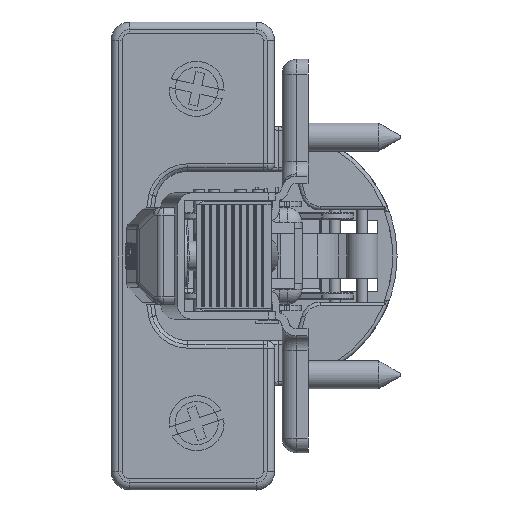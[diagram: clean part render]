
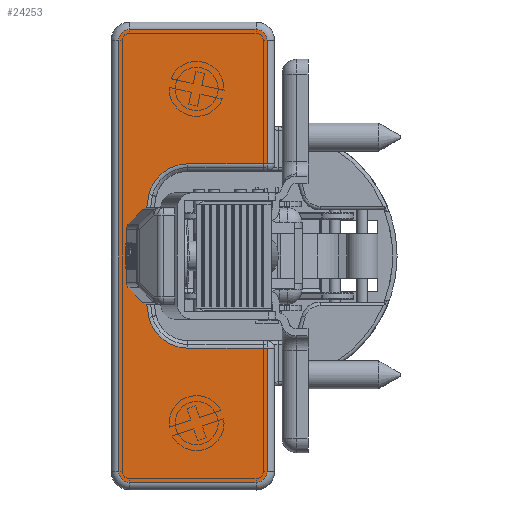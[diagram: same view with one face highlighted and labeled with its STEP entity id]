
A CAD part, left-side view. The second image highlights one B-rep face of the part: STEP entity #24253.
In plain terms, the highlighted planar face has unit normal (-1, 0, 0) as drawn and (0.179, 0.984, 0) by its records, which use the part's own axes.
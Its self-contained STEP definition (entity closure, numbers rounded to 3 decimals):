
#2317=CIRCLE('',#26334,1.5);
#2321=CIRCLE('',#26340,1.5);
#2325=CIRCLE('',#26346,1.5);
#2329=CIRCLE('',#26352,1.5);
#2333=CIRCLE('',#26359,5.4);
#2336=CIRCLE('',#26363,35.4);
#2339=CIRCLE('',#26367,5.4);
#3468=FACE_OUTER_BOUND('',#4950,.T.);
#4950=EDGE_LOOP('',(#19683,#19684,#19685,#19686,#19687,#19688,#19689,#19690,
#19691,#19692,#19693,#19694,#19695,#19696));
#6804=LINE('',#40602,#8758);
#6806=LINE('',#40614,#8760);
#6808=LINE('',#40626,#8762);
#6810=LINE('',#40638,#8764);
#6812=LINE('',#40647,#8766);
#6814=LINE('',#40653,#8768);
#6816=LINE('',#40674,#8770);
#8758=VECTOR('',#31757,16.6);
#8760=VECTOR('',#31771,17.);
#8762=VECTOR('',#31785,58.);
#8764=VECTOR('',#31799,17.);
#8766=VECTOR('',#31811,16.6);
#8768=VECTOR('',#31817,10.672);
#8770=VECTOR('',#31845,10.672);
#10813=VERTEX_POINT('',#40574);
#10818=VERTEX_POINT('',#40587);
#10823=VERTEX_POINT('',#40600);
#10825=VERTEX_POINT('',#40606);
#10827=VERTEX_POINT('',#40612);
#10829=VERTEX_POINT('',#40618);
#10831=VERTEX_POINT('',#40624);
#10833=VERTEX_POINT('',#40630);
#10835=VERTEX_POINT('',#40636);
#10837=VERTEX_POINT('',#40642);
#10839=VERTEX_POINT('',#40651);
#10841=VERTEX_POINT('',#40657);
#10843=VERTEX_POINT('',#40663);
#10845=VERTEX_POINT('',#40669);
#13808=EDGE_CURVE('',#10823,#10818,#6804,.T.);
#13811=EDGE_CURVE('',#10825,#10823,#2317,.T.);
#13814=EDGE_CURVE('',#10827,#10825,#6806,.T.);
#13817=EDGE_CURVE('',#10829,#10827,#2321,.T.);
#13820=EDGE_CURVE('',#10831,#10829,#6808,.T.);
#13823=EDGE_CURVE('',#10833,#10831,#2325,.T.);
#13826=EDGE_CURVE('',#10835,#10833,#6810,.T.);
#13829=EDGE_CURVE('',#10837,#10835,#2329,.T.);
#13831=EDGE_CURVE('',#10813,#10837,#6812,.T.);
#13834=EDGE_CURVE('',#10839,#10813,#6814,.T.);
#13837=EDGE_CURVE('',#10841,#10839,#2333,.T.);
#13840=EDGE_CURVE('',#10843,#10841,#2336,.T.);
#13843=EDGE_CURVE('',#10845,#10843,#2339,.T.);
#13845=EDGE_CURVE('',#10818,#10845,#6816,.T.);
#19683=ORIENTED_EDGE('',*,*,#13808,.F.);
#19684=ORIENTED_EDGE('',*,*,#13811,.F.);
#19685=ORIENTED_EDGE('',*,*,#13814,.F.);
#19686=ORIENTED_EDGE('',*,*,#13817,.F.);
#19687=ORIENTED_EDGE('',*,*,#13820,.F.);
#19688=ORIENTED_EDGE('',*,*,#13823,.F.);
#19689=ORIENTED_EDGE('',*,*,#13826,.F.);
#19690=ORIENTED_EDGE('',*,*,#13829,.F.);
#19691=ORIENTED_EDGE('',*,*,#13831,.F.);
#19692=ORIENTED_EDGE('',*,*,#13834,.F.);
#19693=ORIENTED_EDGE('',*,*,#13837,.F.);
#19694=ORIENTED_EDGE('',*,*,#13840,.F.);
#19695=ORIENTED_EDGE('',*,*,#13843,.F.);
#19696=ORIENTED_EDGE('',*,*,#13845,.F.);
#21814=PLANE('',#26380);
#24253=ADVANCED_FACE('',(#3468),#21814,.T.);
#26334=AXIS2_PLACEMENT_3D('',#40608,#31763,#31764);
#26340=AXIS2_PLACEMENT_3D('',#40620,#31777,#31778);
#26346=AXIS2_PLACEMENT_3D('',#40632,#31791,#31792);
#26352=AXIS2_PLACEMENT_3D('',#40644,#31805,#31806);
#26359=AXIS2_PLACEMENT_3D('',#40659,#31823,#31824);
#26363=AXIS2_PLACEMENT_3D('',#40665,#31831,#31832);
#26367=AXIS2_PLACEMENT_3D('',#40671,#31839,#31840);
#26380=AXIS2_PLACEMENT_3D('',#40704,#31878,#31879);
#31757=DIRECTION('',(0.,0.,-1.));
#31763=DIRECTION('center_axis',(-0.179,-0.984,0.));
#31764=DIRECTION('ref_axis',(-0.696,0.126,0.707));
#31771=DIRECTION('',(-0.984,0.179,0.));
#31777=DIRECTION('center_axis',(-0.179,-0.984,0.));
#31778=DIRECTION('ref_axis',(0.696,-0.126,0.707));
#31785=DIRECTION('',(0.,0.,1.));
#31791=DIRECTION('center_axis',(-0.179,-0.984,0.));
#31792=DIRECTION('ref_axis',(0.696,-0.126,-0.707));
#31799=DIRECTION('',(0.984,-0.179,0.));
#31805=DIRECTION('center_axis',(-0.179,-0.984,0.));
#31806=DIRECTION('ref_axis',(-0.696,0.126,-0.707));
#31811=DIRECTION('',(0.,0.,-1.));
#31817=DIRECTION('',(-0.984,0.179,0.));
#31823=DIRECTION('center_axis',(0.179,0.984,0.));
#31824=DIRECTION('ref_axis',(0.609,-0.111,-0.785));
#31831=DIRECTION('center_axis',(0.179,0.984,0.));
#31832=DIRECTION('ref_axis',(0.984,-0.179,0.));
#31839=DIRECTION('center_axis',(0.179,0.984,0.));
#31840=DIRECTION('ref_axis',(0.609,-0.111,0.785));
#31845=DIRECTION('',(0.984,-0.179,0.));
#31878=DIRECTION('center_axis',(0.179,0.984,0.));
#31879=DIRECTION('ref_axis',(0.,0.,1.));
#40574=CARTESIAN_POINT('',(84.841,19.898,-12.4));
#40587=CARTESIAN_POINT('',(84.841,19.898,12.4));
#40600=CARTESIAN_POINT('',(84.841,19.898,29.));
#40602=CARTESIAN_POINT('',(84.841,19.898,5.7));
#40606=CARTESIAN_POINT('',(86.317,19.63,30.5));
#40608=CARTESIAN_POINT('Origin',(86.317,19.63,29.));
#40612=CARTESIAN_POINT('',(103.044,16.594,30.5));
#40614=CARTESIAN_POINT('',(91.106,18.761,30.5));
#40618=CARTESIAN_POINT('',(104.519,16.327,29.));
#40620=CARTESIAN_POINT('Origin',(103.044,16.594,29.));
#40624=CARTESIAN_POINT('',(104.519,16.327,-29.));
#40626=CARTESIAN_POINT('',(104.519,16.327,14.5));
#40630=CARTESIAN_POINT('',(103.044,16.594,-30.5));
#40632=CARTESIAN_POINT('Origin',(103.044,16.594,-29.));
#40636=CARTESIAN_POINT('',(86.317,19.63,-30.5));
#40638=CARTESIAN_POINT('',(99.469,17.243,-30.5));
#40642=CARTESIAN_POINT('',(84.841,19.898,-29.));
#40644=CARTESIAN_POINT('Origin',(86.317,19.63,-29.));
#40647=CARTESIAN_POINT('',(84.841,19.898,-14.5));
#40651=CARTESIAN_POINT('',(95.341,17.992,-12.4));
#40653=CARTESIAN_POINT('',(89.876,18.984,-12.4));
#40657=CARTESIAN_POINT('',(100.508,17.055,-8.26));
#40659=CARTESIAN_POINT('Origin',(95.341,17.992,-7.));
#40663=CARTESIAN_POINT('',(100.508,17.055,8.26));
#40665=CARTESIAN_POINT('Origin',(66.638,23.202,0.));
#40669=CARTESIAN_POINT('',(95.341,17.992,12.4));
#40671=CARTESIAN_POINT('Origin',(95.341,17.992,7.));
#40674=CARTESIAN_POINT('',(95.618,17.942,12.4));
#40704=CARTESIAN_POINT('Origin',(95.895,17.892,0.));
